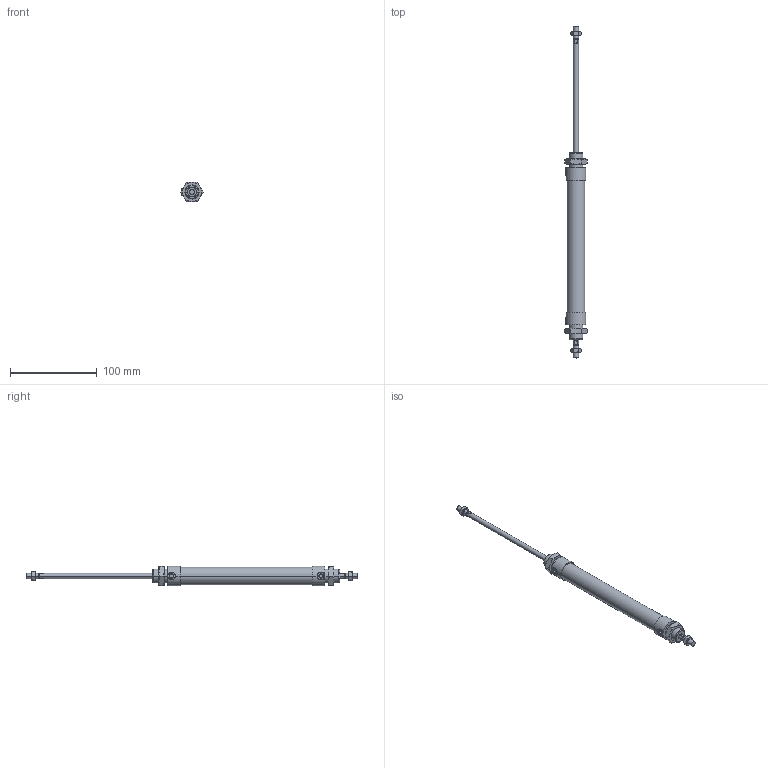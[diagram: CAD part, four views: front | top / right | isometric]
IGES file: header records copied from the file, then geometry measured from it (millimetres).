
Global section: file name: No Iges File Name specified; native system: AutoDesk Inventor R10; preprocessor: AutoDesk Inventor Iges Exporter R10; author: No Author specified; organization: No Organization specified; date: 20060105.143355; units: millimetre
Bounding box: 25.4 x 382 x 23 mm (x, y, z)
Volume: 74649 mm3; surface area: 28722.6 mm2
Topology: 6 solids, 6 shells, 184 faces, 394 edges, 230 vertices
Faces by surface type: cone 68, plane 58, cylinder 24, bspline 20, revolution 14
